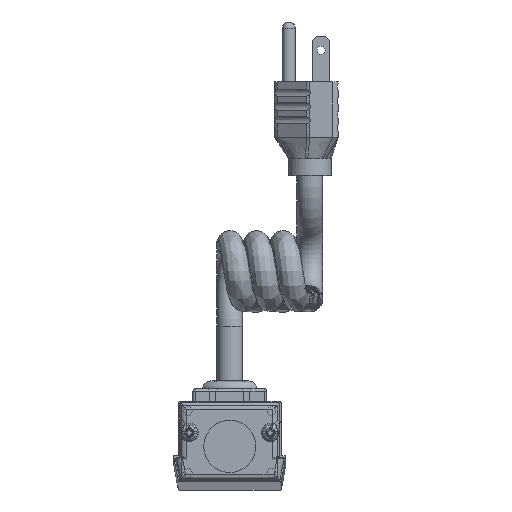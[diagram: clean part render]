
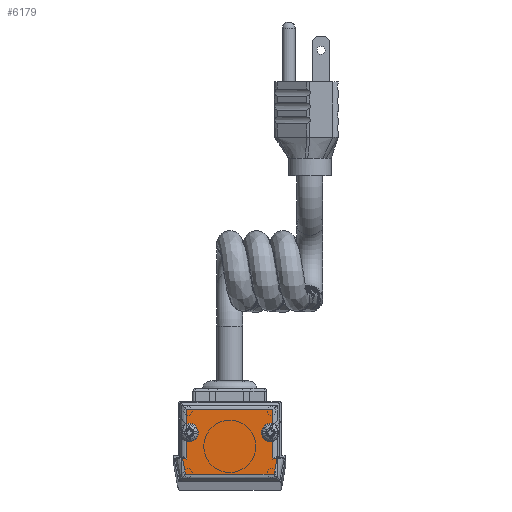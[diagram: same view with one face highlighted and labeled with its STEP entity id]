
A CAD part, top view. The second image highlights one B-rep face of the part: STEP entity #6179.
In plain terms, the highlighted planar face has unit normal (0, 0, 1).
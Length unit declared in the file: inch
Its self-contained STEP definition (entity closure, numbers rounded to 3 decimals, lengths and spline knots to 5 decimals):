
#6005=CARTESIAN_POINT('',(-15.7226,16.40547,2.54));
#6006=VERTEX_POINT('',#6005);
#6007=CARTESIAN_POINT('',(-15.7226,19.05293,2.54));
#6008=VERTEX_POINT('',#6007);
#6026=CARTESIAN_POINT('',(-14.8463,17.7292,2.54));
#6027=DIRECTION('',(0.0,0.0,-1.0));
#6028=DIRECTION('',(1.0,0.0,0.0));
#6029=AXIS2_PLACEMENT_3D('',#6026,#6027,#6028);
#6030=CIRCLE('',#6029,1.5875);
#6031=EDGE_CURVE('',#6008,#6006,#6030,.T.);
#6052=CARTESIAN_POINT('',(15.7226,19.05293,2.54));
#6053=VERTEX_POINT('',#6052);
#6054=CARTESIAN_POINT('',(15.7226,16.40547,2.54));
#6055=VERTEX_POINT('',#6054);
#6073=CARTESIAN_POINT('',(14.8463,17.7292,2.54));
#6074=DIRECTION('',(0.0,0.0,-1.0));
#6075=DIRECTION('',(1.0,0.0,0.0));
#6076=AXIS2_PLACEMENT_3D('',#6073,#6074,#6075);
#6077=CIRCLE('',#6076,1.5875);
#6078=EDGE_CURVE('',#6055,#6053,#6077,.T.);
#6094=CARTESIAN_POINT('',(0.,14.10876,2.54));
#6095=DIRECTION('',(0.0,0.0,1.0));
#6096=DIRECTION('',(1.0,0.0,0.0));
#6097=AXIS2_PLACEMENT_3D('',#6094,#6095,#6096);
#6098=PLANE('',#6097);
#6099=ORIENTED_EDGE('',*,*,#6031,.T.);
#6100=CARTESIAN_POINT('',(-15.7226,8.06566,2.54));
#6101=VERTEX_POINT('',#6100);
#6102=CARTESIAN_POINT('',(-15.7226,8.06566,2.54));
#6103=DIRECTION('',(0.0,1.0,0.0));
#6104=VECTOR('',#6103,8.33981);
#6105=LINE('',#6102,#6104);
#6106=EDGE_CURVE('',#6101,#6006,#6105,.T.);
#6107=ORIENTED_EDGE('',*,*,#6106,.F.);
#6108=CARTESIAN_POINT('',(-17.26917,8.20097,2.54));
#6109=VERTEX_POINT('',#6108);
#6110=CARTESIAN_POINT('',(-17.26917,8.20097,2.54));
#6111=DIRECTION('',(0.996,-0.087,0.0));
#6112=VECTOR('',#6111,1.55247);
#6113=LINE('',#6110,#6112);
#6114=EDGE_CURVE('',#6109,#6101,#6113,.T.);
#6115=ORIENTED_EDGE('',*,*,#6114,.F.);
#6116=CARTESIAN_POINT('',(-16.16879,2.54,2.54));
#6117=VERTEX_POINT('',#6116);
#6118=CARTESIAN_POINT('',(-16.16879,2.54,2.54));
#6119=DIRECTION('',(-0.191,0.982,0.0));
#6120=VECTOR('',#6119,5.76692);
#6121=LINE('',#6118,#6120);
#6122=EDGE_CURVE('',#6117,#6109,#6121,.T.);
#6123=ORIENTED_EDGE('',*,*,#6122,.F.);
#6124=CARTESIAN_POINT('',(16.16879,2.54,2.54));
#6125=VERTEX_POINT('',#6124);
#6126=CARTESIAN_POINT('',(16.16879,2.54,2.54));
#6127=DIRECTION('',(-1.0,0.0,0.0));
#6128=VECTOR('',#6127,32.33757);
#6129=LINE('',#6126,#6128);
#6130=EDGE_CURVE('',#6125,#6117,#6129,.T.);
#6131=ORIENTED_EDGE('',*,*,#6130,.F.);
#6132=CARTESIAN_POINT('',(17.26917,8.20097,2.54));
#6133=VERTEX_POINT('',#6132);
#6134=CARTESIAN_POINT('',(17.26917,8.20097,2.54));
#6135=DIRECTION('',(-0.191,-0.982,0.0));
#6136=VECTOR('',#6135,5.76692);
#6137=LINE('',#6134,#6136);
#6138=EDGE_CURVE('',#6133,#6125,#6137,.T.);
#6139=ORIENTED_EDGE('',*,*,#6138,.F.);
#6140=CARTESIAN_POINT('',(15.7226,8.06566,2.54));
#6141=VERTEX_POINT('',#6140);
#6142=CARTESIAN_POINT('',(15.7226,8.06566,2.54));
#6143=DIRECTION('',(0.996,0.087,0.0));
#6144=VECTOR('',#6143,1.55247);
#6145=LINE('',#6142,#6144);
#6146=EDGE_CURVE('',#6141,#6133,#6145,.T.);
#6147=ORIENTED_EDGE('',*,*,#6146,.F.);
#6148=CARTESIAN_POINT('',(15.7226,16.40547,2.54));
#6149=DIRECTION('',(0.0,-1.0,0.0));
#6150=VECTOR('',#6149,8.33981);
#6151=LINE('',#6148,#6150);
#6152=EDGE_CURVE('',#6055,#6141,#6151,.T.);
#6153=ORIENTED_EDGE('',*,*,#6152,.F.);
#6154=ORIENTED_EDGE('',*,*,#6078,.T.);
#6155=CARTESIAN_POINT('',(15.7226,26.035,2.54));
#6156=VERTEX_POINT('',#6155);
#6157=CARTESIAN_POINT('',(15.7226,26.035,2.54));
#6158=DIRECTION('',(0.0,-1.0,0.0));
#6159=VECTOR('',#6158,6.98207);
#6160=LINE('',#6157,#6159);
#6161=EDGE_CURVE('',#6156,#6053,#6160,.T.);
#6162=ORIENTED_EDGE('',*,*,#6161,.F.);
#6163=CARTESIAN_POINT('',(-15.7226,26.035,2.54));
#6164=VERTEX_POINT('',#6163);
#6165=CARTESIAN_POINT('',(-15.7226,26.035,2.54));
#6166=DIRECTION('',(1.0,0.0,0.0));
#6167=VECTOR('',#6166,31.4452);
#6168=LINE('',#6165,#6167);
#6169=EDGE_CURVE('',#6164,#6156,#6168,.T.);
#6170=ORIENTED_EDGE('',*,*,#6169,.F.);
#6171=CARTESIAN_POINT('',(-15.7226,19.05293,2.54));
#6172=DIRECTION('',(0.0,1.0,0.0));
#6173=VECTOR('',#6172,6.98207);
#6174=LINE('',#6171,#6173);
#6175=EDGE_CURVE('',#6008,#6164,#6174,.T.);
#6176=ORIENTED_EDGE('',*,*,#6175,.F.);
#6177=EDGE_LOOP('',(#6099,#6107,#6115,#6123,#6131,#6139,#6147,#6153,#6154,#6162,#6170,#6176));
#6178=FACE_OUTER_BOUND('',#6177,.T.);
#6179=ADVANCED_FACE('',(#6178),#6098,.T.);
